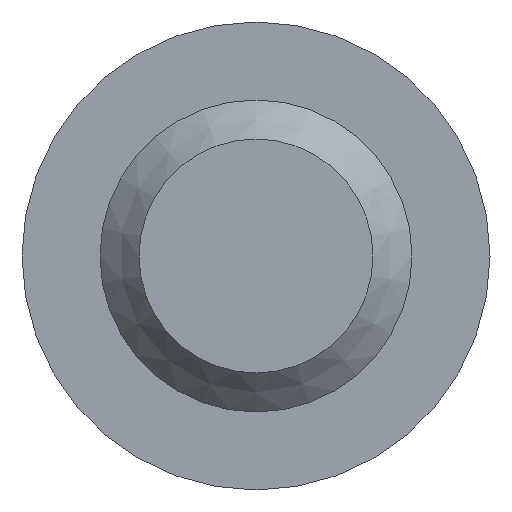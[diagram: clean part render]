
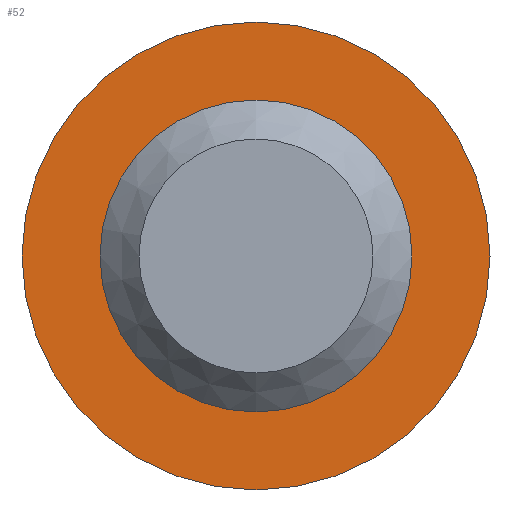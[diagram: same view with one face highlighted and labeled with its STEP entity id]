
A CAD part, left-side view. The second image highlights one B-rep face of the part: STEP entity #52.
In plain terms, the highlighted planar face has unit normal (-1, 0, 0).
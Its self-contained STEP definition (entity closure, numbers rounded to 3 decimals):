
#9 = CIRCLE ( 'NONE', #85, 3. ) ;
#10 = CARTESIAN_POINT ( 'NONE',  ( 7.5, 0., 0. ) ) ;
#25 = FACE_BOUND ( 'NONE', #136, .T. ) ;
#26 = AXIS2_PLACEMENT_3D ( 'NONE', #10, #131, #212 ) ;
#27 = CIRCLE ( 'NONE', #123, 1.6 ) ;
#52 = ADVANCED_FACE ( 'NONE', ( #204, #25 ), #106, .F. ) ;
#58 = VERTEX_POINT ( 'NONE', #135 ) ;
#71 = DIRECTION ( 'NONE',  ( 0., 0., 1. ) ) ;
#74 = DIRECTION ( 'NONE',  ( -1., 0., 0. ) ) ;
#85 = AXIS2_PLACEMENT_3D ( 'NONE', #141, #86, #161 ) ;
#86 = DIRECTION ( 'NONE',  ( 1., 0., 0. ) ) ;
#106 = PLANE ( 'NONE',  #26 ) ;
#108 = ORIENTED_EDGE ( 'NONE', *, *, #122, .F. ) ;
#122 = EDGE_CURVE ( 'NONE', #58, #58, #27, .T. ) ;
#123 = AXIS2_PLACEMENT_3D ( 'NONE', #144, #74, #71 ) ;
#131 = DIRECTION ( 'NONE',  ( 1., 0., 0. ) ) ;
#135 = CARTESIAN_POINT ( 'NONE',  ( 7.5, 0., 1.6 ) ) ;
#136 = EDGE_LOOP ( 'NONE', ( #108 ) ) ;
#140 = EDGE_CURVE ( 'NONE', #214, #214, #9, .T. ) ;
#141 = CARTESIAN_POINT ( 'NONE',  ( 7.5, 0., 0. ) ) ;
#144 = CARTESIAN_POINT ( 'NONE',  ( 7.5, 0., 0. ) ) ;
#148 = CARTESIAN_POINT ( 'NONE',  ( 7.5, 0., -3. ) ) ;
#161 = DIRECTION ( 'NONE',  ( 0., 0., -1. ) ) ;
#204 = FACE_OUTER_BOUND ( 'NONE', #238, .T. ) ;
#212 = DIRECTION ( 'NONE',  ( 0., 0., -1. ) ) ;
#214 = VERTEX_POINT ( 'NONE', #148 ) ;
#236 = ORIENTED_EDGE ( 'NONE', *, *, #140, .F. ) ;
#238 = EDGE_LOOP ( 'NONE', ( #236 ) ) ;
